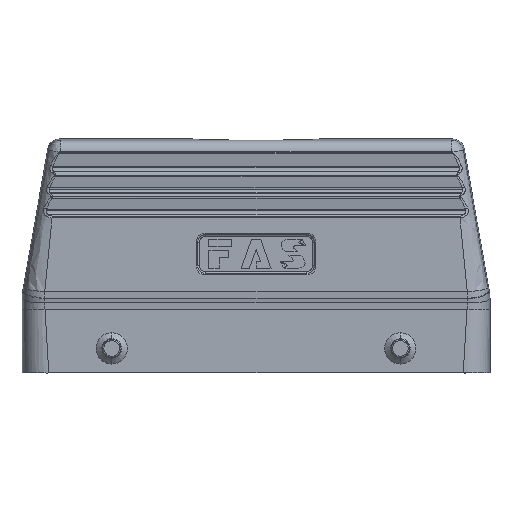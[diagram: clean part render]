
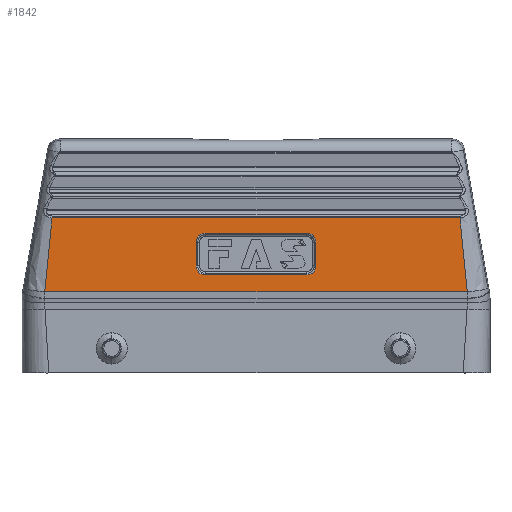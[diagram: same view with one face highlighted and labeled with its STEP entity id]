
A CAD part, front view. The second image highlights one B-rep face of the part: STEP entity #1842.
In plain terms, the highlighted planar face has unit normal (0, -1, 0).
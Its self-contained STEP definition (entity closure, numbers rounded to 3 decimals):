
#80 = EDGE_CURVE ( 'NONE', #17904, #9766, #16345, .T. ) ;
#269 = ORIENTED_EDGE ( 'NONE', *, *, #11974, .F. ) ;
#500 = CARTESIAN_POINT ( 'NONE',  ( 13., -22., 35.866 ) ) ;
#625 = DIRECTION ( 'NONE',  ( -1., 0., 0. ) ) ;
#970 = CARTESIAN_POINT ( 'NONE',  ( 15.366, -22., 34.886 ) ) ;
#1664 = ORIENTED_EDGE ( 'NONE', *, *, #10224, .F. ) ;
#1842 = ADVANCED_FACE ( 'NONE', ( #4097, #8871 ), #14253, .F. ) ;
#2435 = DIRECTION ( 'NONE',  ( 0., 0., 1. ) ) ;
#2439 = CARTESIAN_POINT ( 'NONE',  ( 15.366, -22., 33.5 ) ) ;
#2943 = CARTESIAN_POINT ( 'NONE',  ( 53.748, -22., 27.182 ) ) ;
#3277 = CARTESIAN_POINT ( 'NONE',  ( -13., -22., 35.866 ) ) ;
#3626 = CARTESIAN_POINT ( 'NONE',  ( -15.366, -22., 26.114 ) ) ;
#3790 = CARTESIAN_POINT ( 'NONE',  ( 15.366, -22., 26.114 ) ) ;
#3978 = EDGE_CURVE ( 'NONE', #6780, #7867, #6716, .T. ) ;
#4097 = FACE_BOUND ( 'NONE', #5655, .T. ) ;
#4582 = DIRECTION ( 'NONE',  ( 1., 0., 0. ) ) ;
#5059 = CARTESIAN_POINT ( 'NONE',  ( -52.292, -22., 39.758 ) ) ;
#5131 = EDGE_CURVE ( 'NONE', #9533, #9882, #8176, .T. ) ;
#5240 =( BOUNDED_CURVE ( )  B_SPLINE_CURVE ( 3, ( #11549, #19030, #5874, #21244 ),
 .UNSPECIFIED., .F., .T. ) 
 B_SPLINE_CURVE_WITH_KNOTS ( ( 4, 4 ),
 ( 0., 1. ),
 .UNSPECIFIED. ) 
 CURVE ( )  GEOMETRIC_REPRESENTATION_ITEM ( )  RATIONAL_B_SPLINE_CURVE ( ( 1., 0.805, 0.805, 1. ) ) 
 REPRESENTATION_ITEM ( '' )  );
#5418 = EDGE_CURVE ( 'NONE', #11313, #6780, #9689, .T. ) ;
#5604 = EDGE_CURVE ( 'NONE', #7867, #18052, #5240, .T. ) ;
#5655 = EDGE_LOOP ( 'NONE', ( #13675, #13799, #22493, #22670, #20025, #19063, #7372, #12233 ) ) ;
#5874 = CARTESIAN_POINT ( 'NONE',  ( -15.366, -22., 34.886 ) ) ;
#6329 = ORIENTED_EDGE ( 'NONE', *, *, #80, .F. ) ;
#6482 = CARTESIAN_POINT ( 'NONE',  ( 0., -22., 39.758 ) ) ;
#6716 = LINE ( 'NONE', #20455, #9729 ) ;
#6780 = VERTEX_POINT ( 'NONE', #500 ) ;
#6805 = CARTESIAN_POINT ( 'NONE',  ( -54.009, -22., 24.029 ) ) ;
#7068 = CARTESIAN_POINT ( 'NONE',  ( 0., -22., 25.134 ) ) ;
#7372 = ORIENTED_EDGE ( 'NONE', *, *, #5418, .F. ) ;
#7427 = EDGE_CURVE ( 'NONE', #19672, #9533, #8284, .T. ) ;
#7492 = EDGE_CURVE ( 'NONE', #9882, #11466, #11976, .T. ) ;
#7867 = VERTEX_POINT ( 'NONE', #3277 ) ;
#8031 = VECTOR ( 'NONE', #2435, 1000. ) ;
#8176 = LINE ( 'NONE', #7068, #16252 ) ;
#8284 =( BOUNDED_CURVE ( )  B_SPLINE_CURVE ( 3, ( #9040, #3626, #16793, #20022 ),
 .UNSPECIFIED., .F., .T. ) 
 B_SPLINE_CURVE_WITH_KNOTS ( ( 4, 4 ),
 ( 0., 1. ),
 .UNSPECIFIED. ) 
 CURVE ( )  GEOMETRIC_REPRESENTATION_ITEM ( )  RATIONAL_B_SPLINE_CURVE ( ( 1., 0.805, 0.805, 1. ) ) 
 REPRESENTATION_ITEM ( '' )  );
#8297 = CARTESIAN_POINT ( 'NONE',  ( 15.366, -22., 33.5 ) ) ;
#8390 = CARTESIAN_POINT ( 'NONE',  ( 13., -22., 35.866 ) ) ;
#8765 = CARTESIAN_POINT ( 'NONE',  ( 54.172, -22., 20.875 ) ) ;
#8871 = FACE_OUTER_BOUND ( 'NONE', #18503, .T. ) ;
#9040 = CARTESIAN_POINT ( 'NONE',  ( -15.366, -22., 27.5 ) ) ;
#9456 = CARTESIAN_POINT ( 'NONE',  ( 15.366, -22., 27.5 ) ) ;
#9533 = VERTEX_POINT ( 'NONE', #18097 ) ;
#9630 = CARTESIAN_POINT ( 'NONE',  ( 14.386, -22., 25.134 ) ) ;
#9689 =( BOUNDED_CURVE ( )  B_SPLINE_CURVE ( 3, ( #8297, #970, #16224, #8390 ),
 .UNSPECIFIED., .F., .T. ) 
 B_SPLINE_CURVE_WITH_KNOTS ( ( 4, 4 ),
 ( 0., 1. ),
 .UNSPECIFIED. ) 
 CURVE ( )  GEOMETRIC_REPRESENTATION_ITEM ( )  RATIONAL_B_SPLINE_CURVE ( ( 1., 0.805, 0.805, 1. ) ) 
 REPRESENTATION_ITEM ( '' )  );
#9729 = VECTOR ( 'NONE', #24102, 1000. ) ;
#9766 = VERTEX_POINT ( 'NONE', #10953 ) ;
#9882 = VERTEX_POINT ( 'NONE', #15001 ) ;
#9895 = LINE ( 'NONE', #23361, #13762 ) ;
#10224 = EDGE_CURVE ( 'NONE', #18817, #17387, #15790, .T. ) ;
#10379 = EDGE_CURVE ( 'NONE', #11466, #11313, #14591, .T. ) ;
#10510 = ORIENTED_EDGE ( 'NONE', *, *, #22505, .F. ) ;
#10648 = CARTESIAN_POINT ( 'NONE',  ( -52.292, -22., 39.758 ) ) ;
#10875 = CARTESIAN_POINT ( 'NONE',  ( 54.01, -22., 24.029 ) ) ;
#10953 = CARTESIAN_POINT ( 'NONE',  ( -54.172, -22., 20.875 ) ) ;
#11313 = VERTEX_POINT ( 'NONE', #2439 ) ;
#11466 = VERTEX_POINT ( 'NONE', #15854 ) ;
#11549 = CARTESIAN_POINT ( 'NONE',  ( -13., -22., 35.866 ) ) ;
#11828 = DIRECTION ( 'NONE',  ( 0., 0., -1. ) ) ;
#11974 = EDGE_CURVE ( 'NONE', #9766, #18817, #22721, .T. ) ;
#11976 =( BOUNDED_CURVE ( )  B_SPLINE_CURVE ( 3, ( #15111, #9630, #3790, #9456 ),
 .UNSPECIFIED., .F., .T. ) 
 B_SPLINE_CURVE_WITH_KNOTS ( ( 4, 4 ),
 ( 0., 1. ),
 .UNSPECIFIED. ) 
 CURVE ( )  GEOMETRIC_REPRESENTATION_ITEM ( )  RATIONAL_B_SPLINE_CURVE ( ( 1., 0.805, 0.805, 1. ) ) 
 REPRESENTATION_ITEM ( '' )  );
#12065 = CARTESIAN_POINT ( 'NONE',  ( -240.598, -22., 20.875 ) ) ;
#12143 = CARTESIAN_POINT ( 'NONE',  ( 52.292, -22., 39.758 ) ) ;
#12233 = ORIENTED_EDGE ( 'NONE', *, *, #10379, .F. ) ;
#12668 = DIRECTION ( 'NONE',  ( 1., 0., 0. ) ) ;
#13675 = ORIENTED_EDGE ( 'NONE', *, *, #7492, .F. ) ;
#13762 = VECTOR ( 'NONE', #11828, 1000. ) ;
#13799 = ORIENTED_EDGE ( 'NONE', *, *, #5131, .F. ) ;
#14253 = PLANE ( 'NONE',  #17292 ) ;
#14267 = CARTESIAN_POINT ( 'NONE',  ( 52.708, -22., 36.619 ) ) ;
#14568 = CARTESIAN_POINT ( 'NONE',  ( -53.748, -22., 27.183 ) ) ;
#14591 = LINE ( 'NONE', #19754, #8031 ) ;
#15001 = CARTESIAN_POINT ( 'NONE',  ( 13., -22., 25.134 ) ) ;
#15111 = CARTESIAN_POINT ( 'NONE',  ( 13., -22., 25.134 ) ) ;
#15675 = CARTESIAN_POINT ( 'NONE',  ( -15.366, -22., 27.5 ) ) ;
#15790 = LINE ( 'NONE', #6482, #16980 ) ;
#15854 = CARTESIAN_POINT ( 'NONE',  ( 15.366, -22., 27.5 ) ) ;
#16224 = CARTESIAN_POINT ( 'NONE',  ( 14.386, -22., 35.866 ) ) ;
#16252 = VECTOR ( 'NONE', #12668, 1000. ) ;
#16345 = LINE ( 'NONE', #12065, #16942 ) ;
#16418 = DIRECTION ( 'NONE',  ( 0., 1., 0. ) ) ;
#16485 = CARTESIAN_POINT ( 'NONE',  ( -53.096, -22., 33.477 ) ) ;
#16793 = CARTESIAN_POINT ( 'NONE',  ( -14.386, -22., 25.134 ) ) ;
#16942 = VECTOR ( 'NONE', #625, 1000. ) ;
#16980 = VECTOR ( 'NONE', #4582, 1000. ) ;
#17292 = AXIS2_PLACEMENT_3D ( 'NONE', #23870, #16418, #23708 ) ;
#17387 = VERTEX_POINT ( 'NONE', #12143 ) ;
#17904 = VERTEX_POINT ( 'NONE', #8765 ) ;
#18052 = VERTEX_POINT ( 'NONE', #23375 ) ;
#18097 = CARTESIAN_POINT ( 'NONE',  ( -13., -22., 25.134 ) ) ;
#18262 = CARTESIAN_POINT ( 'NONE',  ( 54.172, -22., 20.875 ) ) ;
#18503 = EDGE_LOOP ( 'NONE', ( #6329, #10510, #1664, #269 ) ) ;
#18817 = VERTEX_POINT ( 'NONE', #10648 ) ;
#19030 = CARTESIAN_POINT ( 'NONE',  ( -14.386, -22., 35.866 ) ) ;
#19063 = ORIENTED_EDGE ( 'NONE', *, *, #3978, .F. ) ;
#19672 = VERTEX_POINT ( 'NONE', #15675 ) ;
#19754 = CARTESIAN_POINT ( 'NONE',  ( 15.366, -22., 0. ) ) ;
#19970 = CARTESIAN_POINT ( 'NONE',  ( -54.172, -22., 20.875 ) ) ;
#20022 = CARTESIAN_POINT ( 'NONE',  ( -13., -22., 25.134 ) ) ;
#20025 = ORIENTED_EDGE ( 'NONE', *, *, #5604, .F. ) ;
#20455 = CARTESIAN_POINT ( 'NONE',  ( 0., -22., 35.866 ) ) ;
#20684 = B_SPLINE_CURVE_WITH_KNOTS ( 'NONE', 3,
 ( #22237, #14267, #24054, #2943, #10875, #18262 ),
 .UNSPECIFIED., .F., .F.,
 ( 4, 2, 4 ),
 ( 0., 0.5, 1. ),
 .UNSPECIFIED. ) ;
#21244 = CARTESIAN_POINT ( 'NONE',  ( -15.366, -22., 33.5 ) ) ;
#22204 = CARTESIAN_POINT ( 'NONE',  ( -52.707, -22., 36.619 ) ) ;
#22237 = CARTESIAN_POINT ( 'NONE',  ( 52.292, -22., 39.758 ) ) ;
#22493 = ORIENTED_EDGE ( 'NONE', *, *, #7427, .F. ) ;
#22505 = EDGE_CURVE ( 'NONE', #17387, #17904, #20684, .T. ) ;
#22670 = ORIENTED_EDGE ( 'NONE', *, *, #23099, .F. ) ;
#22721 = B_SPLINE_CURVE_WITH_KNOTS ( 'NONE', 3,
 ( #19970, #6805, #14568, #16485, #22204, #5059 ),
 .UNSPECIFIED., .F., .F.,
 ( 4, 2, 4 ),
 ( 0., 0.5, 1. ),
 .UNSPECIFIED. ) ;
#23099 = EDGE_CURVE ( 'NONE', #18052, #19672, #9895, .T. ) ;
#23361 = CARTESIAN_POINT ( 'NONE',  ( -15.366, -22., 0. ) ) ;
#23375 = CARTESIAN_POINT ( 'NONE',  ( -15.366, -22., 33.5 ) ) ;
#23708 = DIRECTION ( 'NONE',  ( 0., 0., 1. ) ) ;
#23870 = CARTESIAN_POINT ( 'NONE',  ( 0., -22., 0. ) ) ;
#24054 = CARTESIAN_POINT ( 'NONE',  ( 53.097, -22., 33.477 ) ) ;
#24102 = DIRECTION ( 'NONE',  ( -1., 0., 0. ) ) ;
